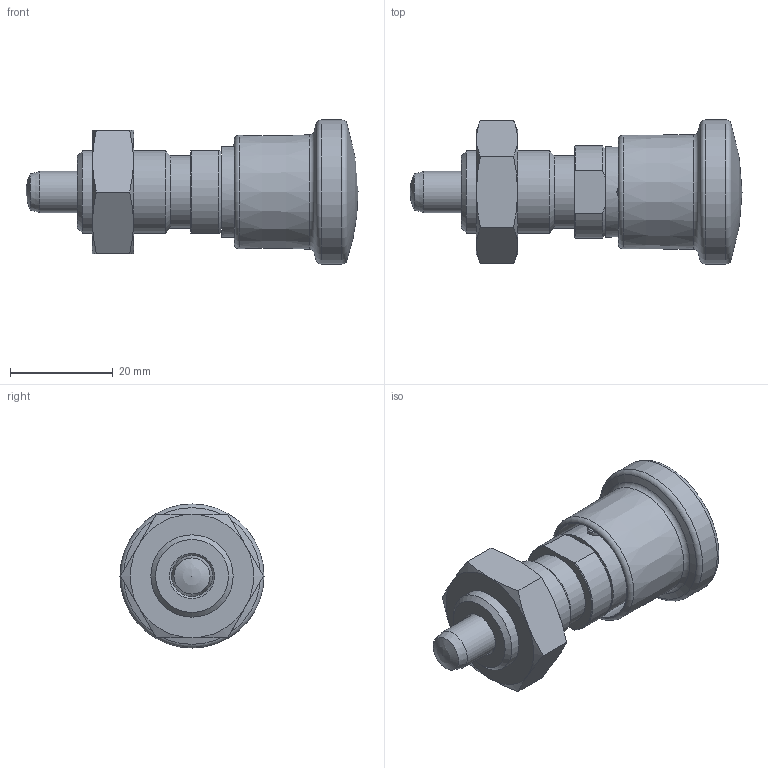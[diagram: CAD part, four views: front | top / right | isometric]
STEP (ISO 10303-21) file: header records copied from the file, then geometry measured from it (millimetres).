
FILE_DESCRIPTION( ( 'STEP AP203' ), '1' );
FILE_NAME( 'C:/Temp/Ganter_Step_05_03_2020/data/3_1/gn816_1/gn_816_1_ak/Locking plunger GN 816.1-8-M16x1,5-AK (activated).stp', '2020-03-12T08:56:11', ( 'License CC BY-ND 4.0' ), ( 'CADENAS' ), ' ', 'PARTsolutions', ' ' );
FILE_SCHEMA( ( 'CONFIG_CONTROL_DESIGN' ) );
Length unit declared in the file: millimetre
Products named in the file (4): Locking plunger GN 816.1-8-M16x1,5-AK (activated); _GN 816.1-8-M16x1,5-A(1)-a2; _GN 816.1-8-M16x1,5-A-a1; _Lock nut ISO 8675 GN 816-8-M16x1,5-AK
Assembly tree (3 placements, depth 2):
  Locking plunger GN 816.1-8-M16x1,5-AK (activated)
    _GN 816.1-8-M16x1,5-A(1)-a2
    _GN 816.1-8-M16x1,5-A-a1
    _Lock nut ISO 8675 GN 816-8-M16x1,5-AK
Bounding box: 64.5 x 28 x 28 mm (x, y, z)
Volume: 16924.1 mm3; surface area: 12059.1 mm2
Topology: 3 solids, 3 shells, 77 faces, 161 edges, 98 vertices
Faces by surface type: cone 31, plane 22, cylinder 16, torus 6, sphere 2
Full cylindrical faces by diameter (mm): 2.9 x1, 3 x2, 8 x2, 11 x1, 11.1 x1, 14.2 x2, 14.376 x1, 16 x1, 18.2 x1, 20.017 x1, 28 x1
Entity records: 2279 total; most frequent: CARTESIAN_POINT 702, DIRECTION 306, ORIENTED_EDGE 232, AXIS2_PLACEMENT_3D 146, EDGE_LOOP 130, EDGE_CURVE 116, FACE_OUTER_BOUND 97, VERTEX_POINT 92
